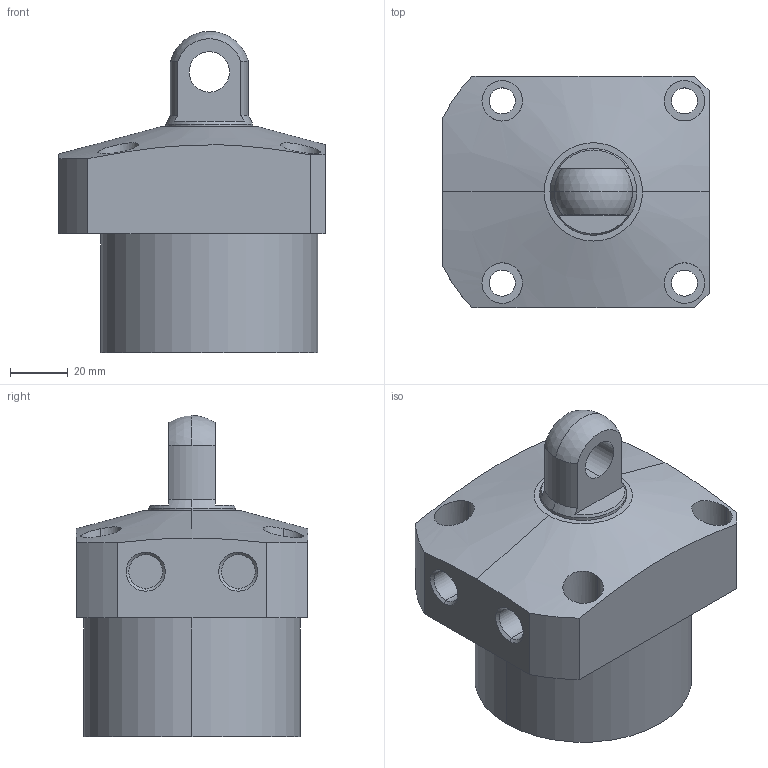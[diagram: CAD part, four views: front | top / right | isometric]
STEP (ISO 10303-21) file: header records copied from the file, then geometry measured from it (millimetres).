
FILE_DESCRIPTION (( 'STEP AP203' ), '1' );
FILE_NAME ('CLL-075CP-25.STEP', '2019-12-20T08:23:28', ( '' ), ( '' ), 'SwSTEP 2.0', 'SolidWorks 2015', '' );
FILE_SCHEMA (( 'CONFIG_CONTROL_DESIGN' ));
Length unit declared in the file: millimetre
Products named in the file (1): CLL-075CP-25
Bounding box: 92 x 80 x 111 mm (x, y, z)
Volume: 410602.2 mm3; surface area: 40930 mm2
Topology: 1 solids, 1 shells, 66 faces, 155 edges, 101 vertices
Faces by surface type: cylinder 35, plane 21, cone 8, sphere 2
Entity records: 2408 total; most frequent: CARTESIAN_POINT 755, DIRECTION 345, ORIENTED_EDGE 310, EDGE_CURVE 155, AXIS2_PLACEMENT_3D 143, VERTEX_POINT 101, EDGE_LOOP 86, CIRCLE 76
